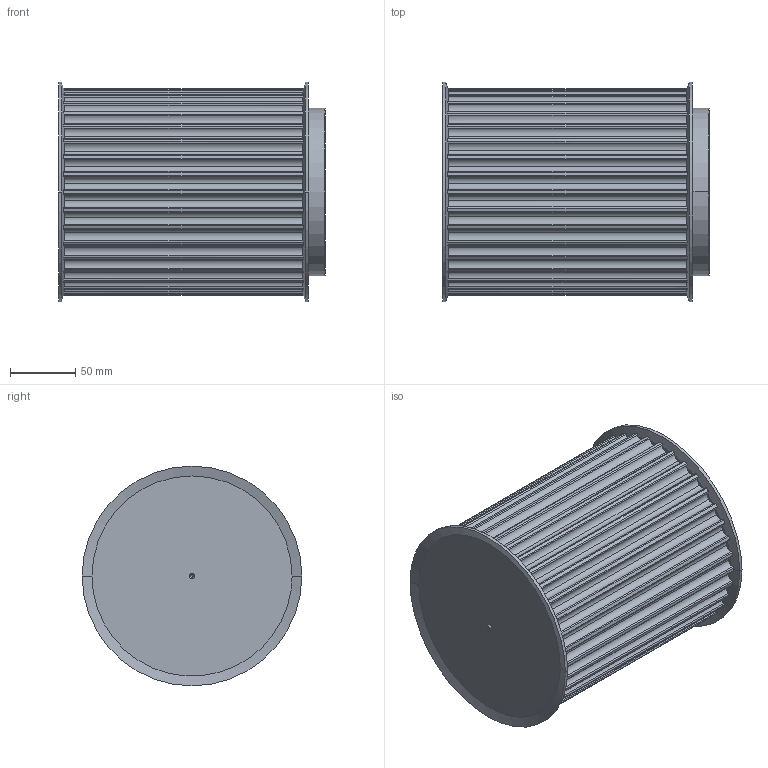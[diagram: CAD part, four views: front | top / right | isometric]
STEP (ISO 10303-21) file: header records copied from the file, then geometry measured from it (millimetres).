
FILE_DESCRIPTION(('STEP AP214'),'1');
FILE_NAME('36_-_14_m_170.stp','2018-03-06T09:54:42',('TraceParts'),('TraceParts S.A.'),'Spatial InterOp 3D',' ',' ');
FILE_SCHEMA(('automotive_design'));
Length unit declared in the file: millimetre
Products named in the file (1): 36_-_14_m_170
Bounding box: 204.01 x 168 x 168 mm (x, y, z)
Volume: 3628493.8 mm3; surface area: 178978.6 mm2
Topology: 1 solids, 1 shells, 283 faces, 826 edges, 544 vertices
Faces by surface type: cylinder 190, plane 75, cone 18
Entity records: 10901 total; most frequent: CARTESIAN_POINT 3666, ORIENTED_EDGE 1644, DIRECTION 1428, EDGE_CURVE 822, AXIS2_PLACEMENT_3D 610, VERTEX_POINT 544, CIRCLE 326, B_SPLINE_CURVE_WITH_KNOTS 288
